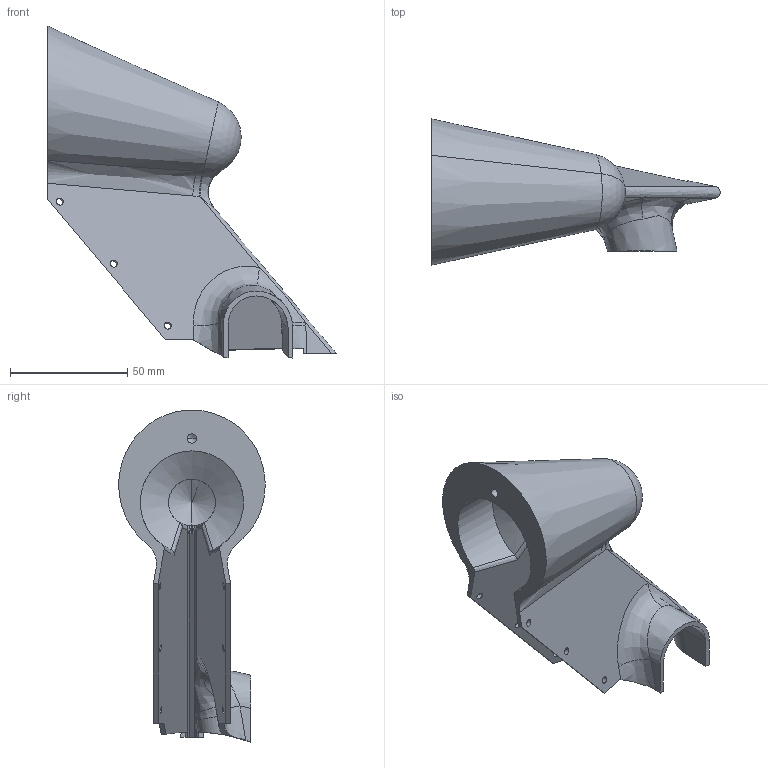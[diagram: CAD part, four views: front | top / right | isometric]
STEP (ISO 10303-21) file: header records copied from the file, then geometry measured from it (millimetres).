
FILE_DESCRIPTION(('CATIA V5 STEP Exchange','CAx-IF Rec.Pracs.--- Model Styling and Organization---1.5--- 2016-08-15','CAx-IF Rec.Pracs.---Supplemental Geometry---1.0---2011-11-01','CAx-IF Rec.Pracs.--- Composite Materials ---1.1---2010-07-15'),'2;1');
FILE_NAME('W:\8-25-003 RENOVATION DEBITMETRE PHI100 A S3\CATIA\Etude\S3MA-8-25003-1015--_CAPOT_DARD_DSP_N-00853.stp','2026-02-06T10:10:32+00:00',('none'),('none'),'CATIA Version 5-6 Release 2020 SP6 HF13','CATIA V5 STEP AP214 v2','none');
FILE_SCHEMA(('AUTOMOTIVE_DESIGN { 1 0 10303 214 1 1 1 1 }'));
Length unit declared in the file: millimetre
Products named in the file (1): S3MA-8-25003-1015--_CAPOT_DARD_DSP_N-00853
Bounding box: 122.84 x 62.31 x 141.36 mm (x, y, z)
Volume: 112208.5 mm3; surface area: 40453.2 mm2
Topology: 1 solids, 1 shells, 88 faces, 242 edges, 151 vertices
Faces by surface type: bspline 30, cylinder 25, plane 20, cone 8, torus 2, sphere 2, extrusion 1
Entity records: 6232 total; most frequent: CARTESIAN_POINT 4401, ORIENTED_EDGE 472, EDGE_CURVE 236, DIRECTION 193, VERTEX_POINT 151, B_SPLINE_CURVE_WITH_KNOTS 115, EDGE_LOOP 101, ADVANCED_FACE 88
